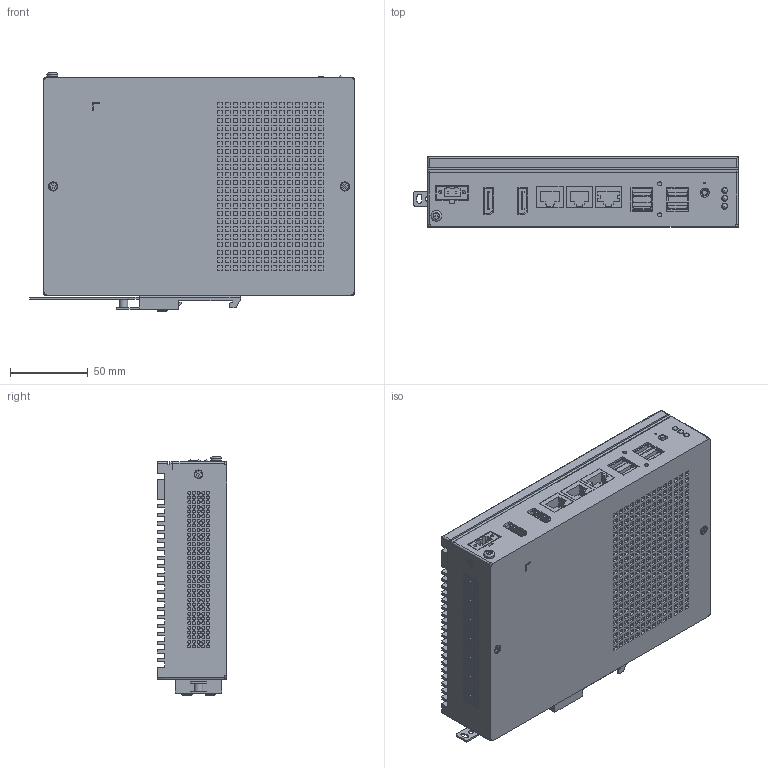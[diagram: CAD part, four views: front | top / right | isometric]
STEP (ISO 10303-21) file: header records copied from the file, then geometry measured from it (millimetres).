
FILE_DESCRIPTION(/* description */ ('STEP AP203'),/* implementation_level */ '2;1');
FILE_NAME(/* name */ 'P_MZ_D400_0006',/* time_stamp */ '2023-09-18T09:51:45+02:00',/* author */ ('License CC BY-ND 4.0'),/* organization */ ('CADENAS'),/* preprocessor_version */ 'ST-DEVELOPER v19.3',/* originating_system */ 'PARTsolutions',/* authorisation */ ' ');
FILE_SCHEMA (('CONFIG_CONTROL_DESIGN'));
Products named in the file (3): P_MZ_D400_0006; P_MZ_D400_0006_P2; P_MZ_D400_0006_P1
Assembly tree (2 placements, depth 2):
  P_MZ_D400_0006
    P_MZ_D400_0006_P2
    P_MZ_D400_0006_P1
Bounding box: 208.99 x 45 x 153.8 mm (x, y, z)
Volume: 1180978.6 mm3; surface area: 153590.1 mm2
Topology: 2 solids, 2 shells, 2957 faces, 6889 edges, 4587 vertices
Faces by surface type: plane 2509, cylinder 430, cone 14, sphere 3, torus 1
Full cylindrical faces by diameter (mm): 1.2 x1, 2 x252, 2.05 x2, 2.6 x2, 3 x9, 3.5 x2, 3.7 x6, 3.8 x3, 4 x3, 4.5 x1, 5 x4, 5.4 x1, 5.5 x1, 6.5 x2, 7 x1
Entity records: 101921 total; most frequent: CARTESIAN_POINT 14112, DIRECTION 13362, ORIENTED_EDGE 13144, EDGE_CURVE 6572, LINE 5702, VECTOR 5702, VERTEX_POINT 4580, FACE_BOUND 3928
